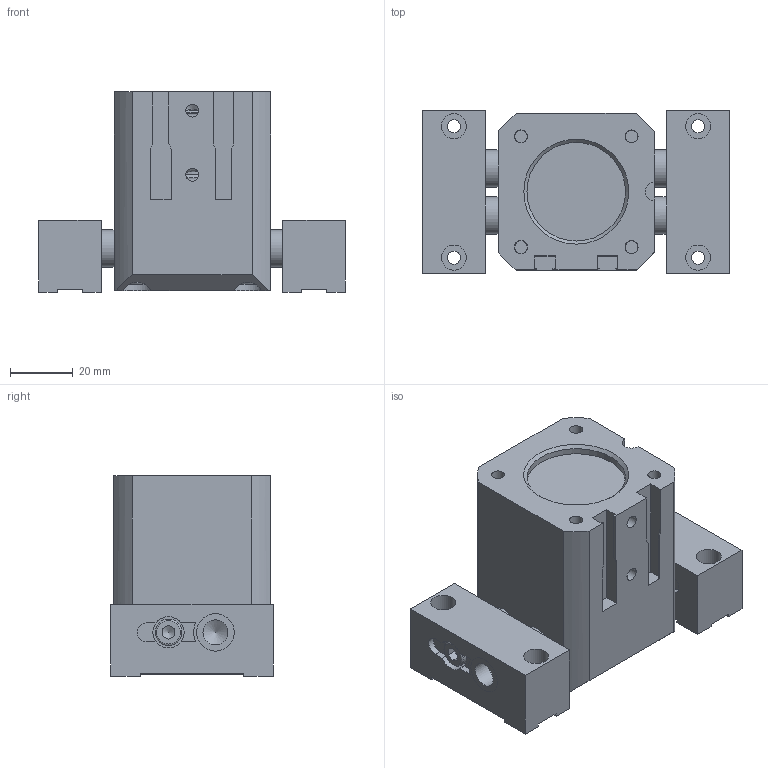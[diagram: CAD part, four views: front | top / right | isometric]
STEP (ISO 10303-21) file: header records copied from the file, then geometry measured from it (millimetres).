
FILE_DESCRIPTION((''),'2;1');
FILE_NAME('T:\CAD\Standard\Daten\3D-Datenbank\GP\4 - 3D-CAD-Daten GP 050-125\GP063\step-Daten\G-GP063-l1-GÖ+UB open.stp','2013-11-07T14:15:30',('Dirk'),(''),'Autodesk Inventor 2011','Autodesk Inventor 2011','');
FILE_SCHEMA(('AUTOMOTIVE_DESIGN { 1 0 10303 214 1 1 1 1 }'));
Length unit declared in the file: millimetre
Products named in the file (1): Bauteil87
Bounding box: 98 x 52 x 64 mm (x, y, z)
Volume: 168579.1 mm3; surface area: 59115.4 mm2
Topology: 1 solids, 15 shells, 385 faces, 980 edges, 636 vertices
Faces by surface type: plane 224, cylinder 104, cone 34, torus 22, bspline 1
Full cylindrical faces by diameter (mm): 2.459 x2, 4.134 x12, 5 x2, 5.5 x2, 6.647 x1, 8 x7, 8.5 x7, 10 x8, 12 x8, 14 x7, 16 x2, 18.6 x2, 21.1 x2, 25 x1, 28.9 x2, 31.5 x1, 33 x1, 33.6 x2, 35.5 x2, 40 x5
Entity records: 12313 total; most frequent: CARTESIAN_POINT 3330, DIRECTION 1772, ORIENTED_EDGE 1578, EDGE_CURVE 789, AXIS2_PLACEMENT_3D 681, EDGE_LOOP 593, VERTEX_POINT 573, VECTOR 410
